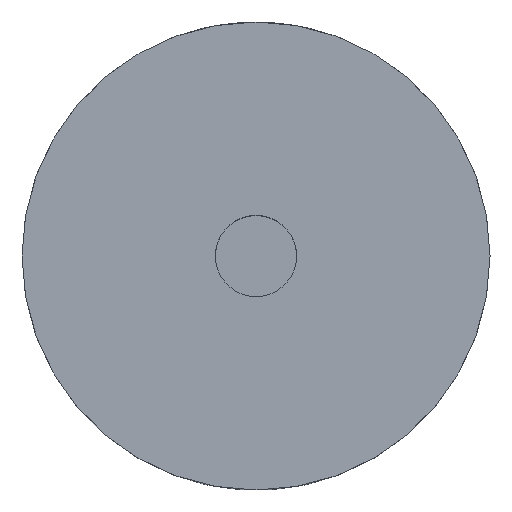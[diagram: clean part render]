
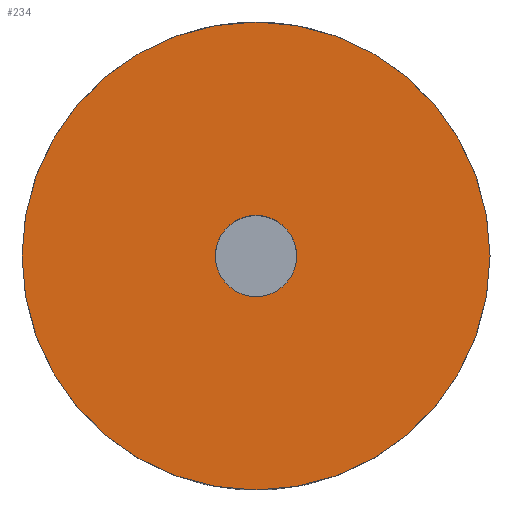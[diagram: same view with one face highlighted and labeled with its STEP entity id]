
A CAD part, top view. The second image highlights one B-rep face of the part: STEP entity #234.
In plain terms, the highlighted planar face has unit normal (0, 0, 1).
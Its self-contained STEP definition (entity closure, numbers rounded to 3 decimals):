
#52 = CARTESIAN_POINT ( 'NONE',  ( 2.6, 0., 5. ) ) ;
#56 = CIRCLE ( 'NONE', #81, 2.6 ) ;
#81 = AXIS2_PLACEMENT_3D ( 'NONE', #851, #345, #519 ) ;
#93 = DIRECTION ( 'NONE',  ( 1., 0., 0. ) ) ;
#98 = EDGE_CURVE ( 'NONE', #688, #256, #163, .T. ) ;
#105 = AXIS2_PLACEMENT_3D ( 'NONE', #431, #336, #93 ) ;
#116 = ORIENTED_EDGE ( 'NONE', *, *, #98, .T. ) ;
#147 = CARTESIAN_POINT ( 'NONE',  ( -2.6, 0., 5. ) ) ;
#163 = CIRCLE ( 'NONE', #546, 15. ) ;
#184 = CARTESIAN_POINT ( 'NONE',  ( -15., 0., 5. ) ) ;
#198 = EDGE_LOOP ( 'NONE', ( #620, #251 ) ) ;
#203 = FACE_BOUND ( 'NONE', #198, .T. ) ;
#205 = DIRECTION ( 'NONE',  ( 1., 0., 0. ) ) ;
#234 = ADVANCED_FACE ( 'NONE', ( #203, #339 ), #425, .T. ) ;
#251 = ORIENTED_EDGE ( 'NONE', *, *, #673, .F. ) ;
#256 = VERTEX_POINT ( 'NONE', #184 ) ;
#277 = EDGE_LOOP ( 'NONE', ( #968, #116 ) ) ;
#336 = DIRECTION ( 'NONE',  ( 0., 0., 1. ) ) ;
#339 = FACE_OUTER_BOUND ( 'NONE', #277, .T. ) ;
#345 = DIRECTION ( 'NONE',  ( 0., 0., 1. ) ) ;
#354 = CIRCLE ( 'NONE', #655, 15. ) ;
#398 = DIRECTION ( 'NONE',  ( 0., 0., 1. ) ) ;
#425 = PLANE ( 'NONE',  #105 ) ;
#431 = CARTESIAN_POINT ( 'NONE',  ( 0., 0., 5. ) ) ;
#437 = CIRCLE ( 'NONE', #454, 2.6 ) ;
#454 = AXIS2_PLACEMENT_3D ( 'NONE', #729, #894, #978 ) ;
#460 = CARTESIAN_POINT ( 'NONE',  ( 0., 0., 5. ) ) ;
#519 = DIRECTION ( 'NONE',  ( 1., 0., 0. ) ) ;
#540 = VERTEX_POINT ( 'NONE', #147 ) ;
#546 = AXIS2_PLACEMENT_3D ( 'NONE', #909, #398, #838 ) ;
#620 = ORIENTED_EDGE ( 'NONE', *, *, #633, .F. ) ;
#633 = EDGE_CURVE ( 'NONE', #764, #540, #56, .T. ) ;
#655 = AXIS2_PLACEMENT_3D ( 'NONE', #460, #1050, #205 ) ;
#673 = EDGE_CURVE ( 'NONE', #540, #764, #437, .T. ) ;
#688 = VERTEX_POINT ( 'NONE', #1059 ) ;
#729 = CARTESIAN_POINT ( 'NONE',  ( 0., 0., 5. ) ) ;
#764 = VERTEX_POINT ( 'NONE', #52 ) ;
#803 = EDGE_CURVE ( 'NONE', #256, #688, #354, .T. ) ;
#838 = DIRECTION ( 'NONE',  ( 1., 0., 0. ) ) ;
#851 = CARTESIAN_POINT ( 'NONE',  ( 0., 0., 5. ) ) ;
#894 = DIRECTION ( 'NONE',  ( 0., 0., 1. ) ) ;
#909 = CARTESIAN_POINT ( 'NONE',  ( 0., 0., 5. ) ) ;
#968 = ORIENTED_EDGE ( 'NONE', *, *, #803, .T. ) ;
#978 = DIRECTION ( 'NONE',  ( 1., 0., 0. ) ) ;
#1050 = DIRECTION ( 'NONE',  ( 0., 0., 1. ) ) ;
#1059 = CARTESIAN_POINT ( 'NONE',  ( 15., 0., 5. ) ) ;
